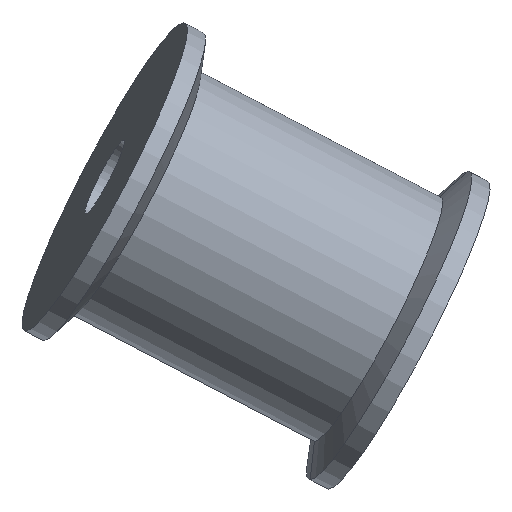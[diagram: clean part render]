
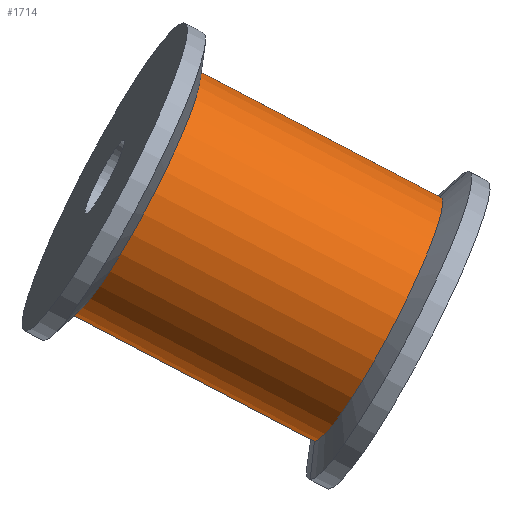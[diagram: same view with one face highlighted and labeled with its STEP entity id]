
A CAD part, front view. The second image highlights one B-rep face of the part: STEP entity #1714.
In plain terms, the highlighted cylindrical face has radius 20 mm (diameter 40 mm), a partial arc.
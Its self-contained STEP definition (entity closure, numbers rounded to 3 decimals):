
#324 = DIRECTION ( 'NONE',  ( -1., 0., 0. ) ) ;
#387 = EDGE_CURVE ( 'NONE', #443, #2339, #2976, .T. ) ;
#443 = VERTEX_POINT ( 'NONE', #10462 ) ;
#591 = CARTESIAN_POINT ( 'NONE',  ( 0., 0., -20. ) ) ;
#612 = CARTESIAN_POINT ( 'NONE',  ( -20., 0., -20. ) ) ;
#1235 = DIRECTION ( 'NONE',  ( 0., 0., -1. ) ) ;
#1270 = VECTOR ( 'NONE', #1235, 1000. ) ;
#1353 = CARTESIAN_POINT ( 'NONE',  ( 20., 0., 20. ) ) ;
#1714 = ADVANCED_FACE ( 'NONE', ( #6617 ), #8242, .T. ) ;
#2070 = ORIENTED_EDGE ( 'NONE', *, *, #7521, .T. ) ;
#2339 = VERTEX_POINT ( 'NONE', #612 ) ;
#2377 = DIRECTION ( 'NONE',  ( -1., 0., 0. ) ) ;
#2551 = DIRECTION ( 'NONE',  ( 0., 0., -1. ) ) ;
#2828 = CARTESIAN_POINT ( 'NONE',  ( 0., 0., 25. ) ) ;
#2867 = AXIS2_PLACEMENT_3D ( 'NONE', #2828, #10073, #324 ) ;
#2976 = CIRCLE ( 'NONE', #3158, 20. ) ;
#3086 = ORIENTED_EDGE ( 'NONE', *, *, #5259, .T. ) ;
#3158 = AXIS2_PLACEMENT_3D ( 'NONE', #591, #3319, #2377 ) ;
#3253 = VECTOR ( 'NONE', #2551, 1000. ) ;
#3319 = DIRECTION ( 'NONE',  ( 0., 0., -1. ) ) ;
#3432 = LINE ( 'NONE', #10712, #3253 ) ;
#3722 = CIRCLE ( 'NONE', #6763, 20. ) ;
#4264 = ORIENTED_EDGE ( 'NONE', *, *, #387, .F. ) ;
#4733 = VERTEX_POINT ( 'NONE', #1353 ) ;
#4839 = CARTESIAN_POINT ( 'NONE',  ( -20., 0., 20. ) ) ;
#5259 = EDGE_CURVE ( 'NONE', #11618, #2339, #3432, .T. ) ;
#6078 = EDGE_LOOP ( 'NONE', ( #6852, #2070, #3086, #4264 ) ) ;
#6447 = DIRECTION ( 'NONE',  ( 0., 0., -1. ) ) ;
#6617 = FACE_OUTER_BOUND ( 'NONE', #6078, .T. ) ;
#6742 = CARTESIAN_POINT ( 'NONE',  ( 20., 0., 25. ) ) ;
#6763 = AXIS2_PLACEMENT_3D ( 'NONE', #8423, #6447, #9075 ) ;
#6852 = ORIENTED_EDGE ( 'NONE', *, *, #11539, .F. ) ;
#7521 = EDGE_CURVE ( 'NONE', #4733, #11618, #3722, .T. ) ;
#8242 = CYLINDRICAL_SURFACE ( 'NONE', #2867, 20. ) ;
#8423 = CARTESIAN_POINT ( 'NONE',  ( 0., 0., 20. ) ) ;
#9075 = DIRECTION ( 'NONE',  ( -1., 0., 0. ) ) ;
#10073 = DIRECTION ( 'NONE',  ( 0., 0., -1. ) ) ;
#10462 = CARTESIAN_POINT ( 'NONE',  ( 20., 0., -20. ) ) ;
#10712 = CARTESIAN_POINT ( 'NONE',  ( -20., 0., 25. ) ) ;
#11161 = LINE ( 'NONE', #6742, #1270 ) ;
#11539 = EDGE_CURVE ( 'NONE', #4733, #443, #11161, .T. ) ;
#11618 = VERTEX_POINT ( 'NONE', #4839 ) ;
